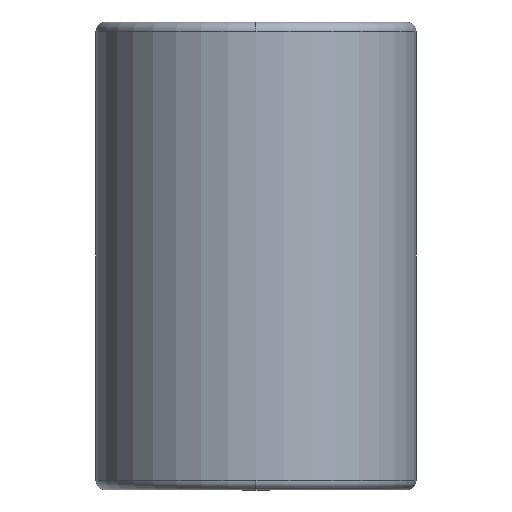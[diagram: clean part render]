
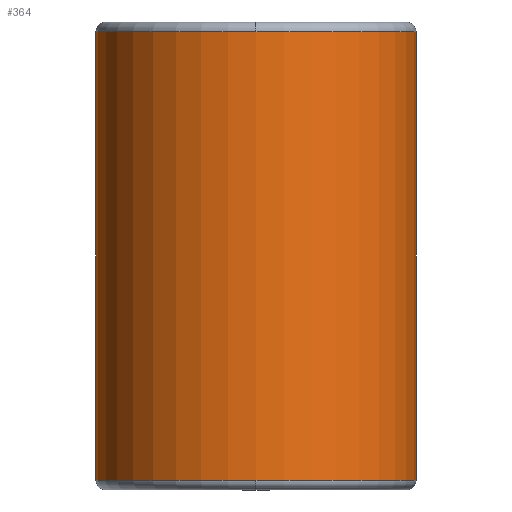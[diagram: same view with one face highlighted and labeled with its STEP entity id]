
A CAD part, front view. The second image highlights one B-rep face of the part: STEP entity #364.
In plain terms, the highlighted cylindrical face has radius 32.493 mm (diameter 64.986 mm), a partial arc.
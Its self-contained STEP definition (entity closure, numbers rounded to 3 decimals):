
#269=CARTESIAN_POINT('',(0.0,-32.493,93.));
#270=VERTEX_POINT('',#269);
#296=CARTESIAN_POINT('',(-32.493,0.,93.));
#297=VERTEX_POINT('',#296);
#305=CARTESIAN_POINT('',(0.0,0.,93.));
#306=DIRECTION('',(0.0,0.0,1.0));
#307=DIRECTION('',(1.0,0.0,0.0));
#308=AXIS2_PLACEMENT_3D('',#305,#306,#307);
#309=CIRCLE('',#308,32.493);
#310=EDGE_CURVE('',#297,#270,#309,.T.);
#315=CARTESIAN_POINT('',(0.0,0.,47.5));
#316=DIRECTION('',(0.0,0.,1.0));
#317=DIRECTION('',(1.0,0.0,0.0));
#318=AXIS2_PLACEMENT_3D('',#315,#316,#317);
#319=CYLINDRICAL_SURFACE('',#318,32.493);
#320=CARTESIAN_POINT('',(32.493,0.,93.));
#321=VERTEX_POINT('',#320);
#322=CARTESIAN_POINT('',(32.493,0.,2.));
#323=VERTEX_POINT('',#322);
#324=CARTESIAN_POINT('',(32.493,0.,93.));
#325=DIRECTION('',(0.0,0.0,-1.0));
#326=VECTOR('',#325,91.);
#327=LINE('',#324,#326);
#328=EDGE_CURVE('',#321,#323,#327,.T.);
#329=ORIENTED_EDGE('',*,*,#328,.F.);
#330=CARTESIAN_POINT('',(0.0,0.,93.));
#331=DIRECTION('',(0.0,0.0,1.0));
#332=DIRECTION('',(1.0,0.0,0.0));
#333=AXIS2_PLACEMENT_3D('',#330,#331,#332);
#334=CIRCLE('',#333,32.493);
#335=EDGE_CURVE('',#270,#321,#334,.T.);
#336=ORIENTED_EDGE('',*,*,#335,.F.);
#337=ORIENTED_EDGE('',*,*,#310,.F.);
#338=CARTESIAN_POINT('',(-32.493,0.,2.0));
#339=VERTEX_POINT('',#338);
#340=CARTESIAN_POINT('',(-32.493,0.,93.));
#341=DIRECTION('',(0.0,0.0,-1.0));
#342=VECTOR('',#341,91.);
#343=LINE('',#340,#342);
#344=EDGE_CURVE('',#297,#339,#343,.T.);
#345=ORIENTED_EDGE('',*,*,#344,.T.);
#346=CARTESIAN_POINT('',(0.0,-32.493,2.));
#347=VERTEX_POINT('',#346);
#348=CARTESIAN_POINT('',(0.0,0.,2.0));
#349=DIRECTION('',(0.0,0.0,1.0));
#350=DIRECTION('',(1.0,0.0,0.0));
#351=AXIS2_PLACEMENT_3D('',#348,#349,#350);
#352=CIRCLE('',#351,32.493);
#353=EDGE_CURVE('',#339,#347,#352,.T.);
#354=ORIENTED_EDGE('',*,*,#353,.T.);
#355=CARTESIAN_POINT('',(0.0,0.,2.0));
#356=DIRECTION('',(0.0,0.0,1.0));
#357=DIRECTION('',(1.0,0.0,0.0));
#358=AXIS2_PLACEMENT_3D('',#355,#356,#357);
#359=CIRCLE('',#358,32.493);
#360=EDGE_CURVE('',#347,#323,#359,.T.);
#361=ORIENTED_EDGE('',*,*,#360,.T.);
#362=EDGE_LOOP('',(#329,#336,#337,#345,#354,#361));
#363=FACE_OUTER_BOUND('',#362,.T.);
#364=ADVANCED_FACE('',(#363),#319,.T.);
